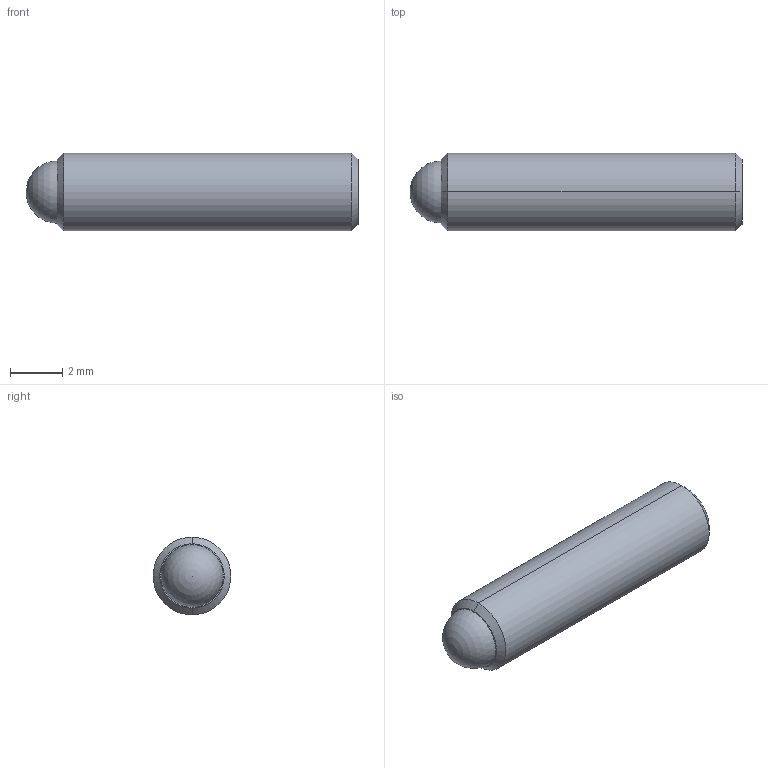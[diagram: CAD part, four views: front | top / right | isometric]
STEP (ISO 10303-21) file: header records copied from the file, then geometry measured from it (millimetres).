
FILE_DESCRIPTION (( 'STEP AP214' ), '1' );
FILE_NAME ('TS6-80-500.STEP', '2014-07-28T19:30:57', ( 'workpc' ), ( 'Microsoft' ), 'SwSTEP 2.0', 'SolidWorks 2013', '' );
FILE_SCHEMA (( 'AUTOMOTIVE_DESIGN' ));
Length unit declared in the file: inch
Products named in the file (1): TS6-80-500
Bounding box: 12.7 x 2.97 x 2.97 mm (x, y, z)
Volume: 73.2 mm3; surface area: 160.8 mm2
Topology: 2 solids, 2 shells, 20 faces, 45 edges, 29 vertices
Faces by surface type: plane 10, cylinder 4, cone 4, sphere 2
Entity records: 573 total; most frequent: DIRECTION 96, CARTESIAN_POINT 87, ORIENTED_EDGE 80, EDGE_CURVE 40, AXIS2_PLACEMENT_3D 35, LINE 26, VERTEX_POINT 26, VECTOR 26
